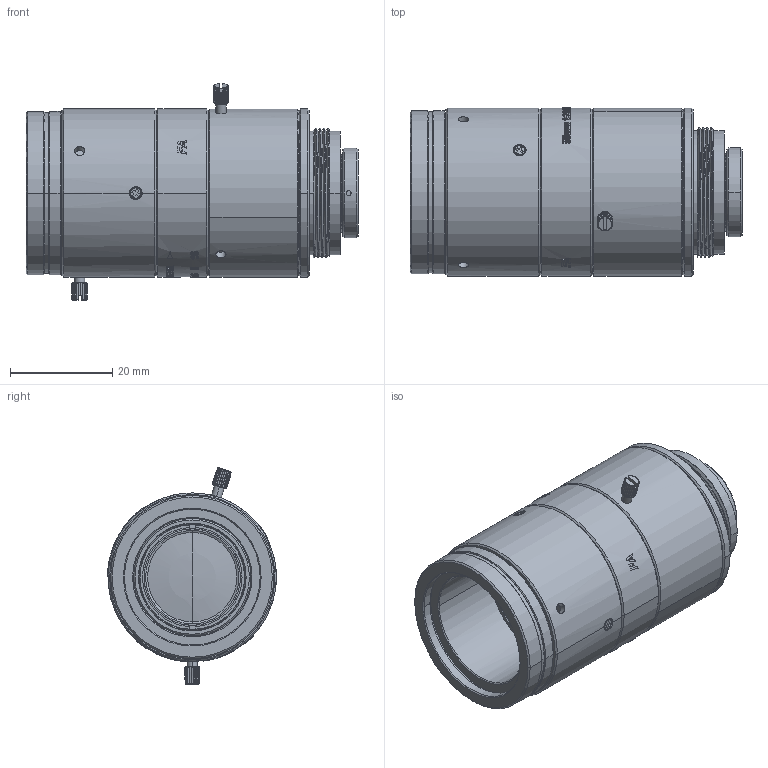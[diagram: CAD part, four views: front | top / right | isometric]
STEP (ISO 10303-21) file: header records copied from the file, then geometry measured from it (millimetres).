
FILE_DESCRIPTION((''),'2;1');
FILE_NAME('FLMC05_ASM_ASM','2024-10-16T15:18:31',('Administrator'),(''),'CREO PARAMETRIC BY PTC INC, 2021063','CREO PARAMETRIC BY PTC INC, 2021063','');
FILE_SCHEMA(('AUTOMOTIVE_DESIGN { 1 0 10303 214 1 1 1 1 }'));
Length unit declared in the file: millimetre
Products named in the file (1): FLMC05_ASM_ASM
Bounding box: 65.06 x 33.1 x 42.43 mm (x, y, z)
Volume: 30356.5 mm3; surface area: 20846.2 mm2
Topology: 1 solids, 18 shells, 1648 faces, 4452 edges, 2938 vertices
Faces by surface type: cylinder 511, bspline 493, plane 470, cone 166, sphere 8
Entity records: 88829 total; most frequent: CARTESIAN_POINT 51003, ORIENTED_EDGE 8860, DIRECTION 6125, EDGE_CURVE 4438, VERTEX_POINT 2938, AXIS2_PLACEMENT_3D 2146, VECTOR 1833, LINE 1833
